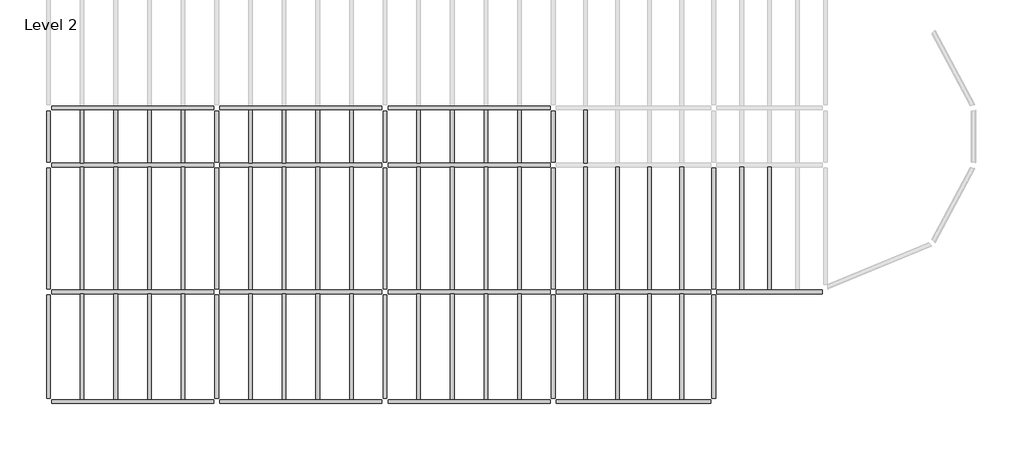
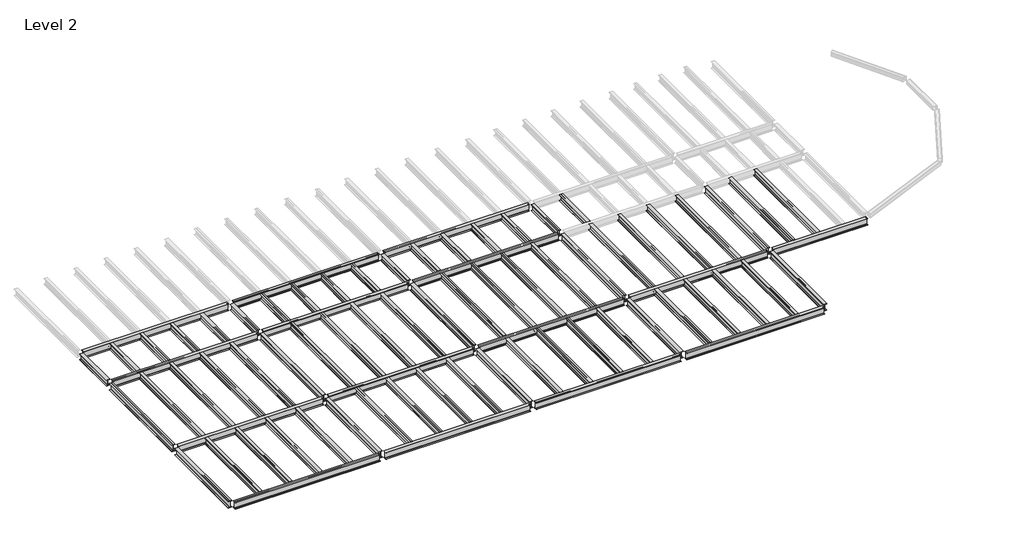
# One storey, part 1 of 2: 76 beams.
"""IFC4 building model written with IfcOpenShell, lengths in millimetres."""

from ifc_helpers import new_model, si_unit, origin, place, context, project, spatial, transform, mapped, element, save
from components import w_shapes_w12x26_ac08b433, w_shapes_w12x26_80971791, w_shapes_w12x26_13ab2ca8, w_shapes_w12x26_1a00c8bd, w_shapes_w14x30_2b5df836, w_shapes_w14x30_7cdcd298, w_shapes_w14x30_aa676985, w_shapes_w14x30_0fa609c7, w_shapes_w14x30_0dffa004

model = new_model("IFC4")

# Units and contexts
model_context = context("Model", 3, world=origin())
ifc_project = project(units=[si_unit("LENGTHUNIT", "METRE", prefix="MILLI")], contexts=[model_context])

# Site, building, storey
site = spatial("IfcSite", under=ifc_project)
building = spatial("IfcBuilding", under=site)
storey = spatial("IfcBuildingStorey", under=building, Name="Level 2", Elevation=3505.2)

# Beams
placement = place(None, origin())
w_shapes_w12x26_shape = w_shapes_w12x26_ac08b433(model_context)
element("IfcBeam", 1, ObjectType="W Shapes : W12X26", at=placement, inside=storey, context=model_context, shape_type="MappedRepresentation", body=[
    mapped(w_shapes_w12x26_shape, transform((-17242.6535279, -2505.8101681, 3350.26), x_axis=(0.0, -1.0, 0.0), y_axis=(1.0, 0.0, 0.0), z_axis=(0.0, 0.0, 1.0))),
])
element("IfcBeam", 2, ObjectType="W Shapes : W12X26", at=placement, inside=storey, context=model_context, shape_type="MappedRepresentation", body=[
    mapped(w_shapes_w12x26_shape, transform((-9622.6535279, -2505.8101681, 3350.26), x_axis=(0.0, -1.0, 0.0), y_axis=(1.0, 0.0, 0.0), z_axis=(0.0, 0.0, 1.0))),
])
element("IfcBeam", 3, ObjectType="W Shapes : W12X26", at=placement, inside=storey, context=model_context, shape_type="MappedRepresentation", body=[
    mapped(w_shapes_w12x26_shape, transform((-2002.6535279, -2505.8101681, 3350.26), x_axis=(0.0, -1.0, 0.0), y_axis=(1.0, 0.0, 0.0), z_axis=(0.0, 0.0, 1.0))),
])
element("IfcBeam", 4, ObjectType="W Shapes : W12X26", at=placement, inside=storey, context=model_context, shape_type="MappedRepresentation", body=[
    mapped(w_shapes_w12x26_shape, transform((5617.3464721, -2505.8101681, 3350.26), x_axis=(0.0, -1.0, 0.0), y_axis=(1.0, 0.0, 0.0), z_axis=(0.0, 0.0, 1.0))),
])
w_shapes_w12x26_2_shape = w_shapes_w12x26_80971791(model_context)
element("IfcBeam", 5, ObjectType="W Shapes : W12X26", at=placement, inside=storey, context=model_context, shape_type="MappedRepresentation", body=[
    mapped(w_shapes_w12x26_2_shape, transform((-11146.6535279, -12033.9851681, 3350.26), x_axis=(0.0, -1.0, 0.0), y_axis=(1.0, 0.0, 0.0), z_axis=(0.0, 0.0, 1.0))),
])
element("IfcBeam", 6, ObjectType="W Shapes : W12X26", at=placement, inside=storey, context=model_context, shape_type="MappedRepresentation", body=[
    mapped(w_shapes_w12x26_2_shape, transform((-12670.6535279, -12033.9851681, 3350.26), x_axis=(0.0, -1.0, 0.0), y_axis=(1.0, 0.0, 0.0), z_axis=(0.0, 0.0, 1.0))),
])
element("IfcBeam", 7, ObjectType="W Shapes : W12X26", at=placement, inside=storey, context=model_context, shape_type="MappedRepresentation", body=[
    mapped(w_shapes_w12x26_2_shape, transform((-14194.6535279, -12033.9851681, 3350.26), x_axis=(0.0, -1.0, 0.0), y_axis=(1.0, 0.0, 0.0), z_axis=(0.0, 0.0, 1.0))),
])
element("IfcBeam", 8, ObjectType="W Shapes : W12X26", at=placement, inside=storey, context=model_context, shape_type="MappedRepresentation", body=[
    mapped(w_shapes_w12x26_2_shape, transform((-15718.6535279, -12033.9851681, 3350.26), x_axis=(0.0, -1.0, 0.0), y_axis=(1.0, 0.0, 0.0), z_axis=(0.0, 0.0, 1.0))),
])
element("IfcBeam", 9, ObjectType="W Shapes : W12X26", at=placement, inside=storey, context=model_context, shape_type="MappedRepresentation", body=[
    mapped(w_shapes_w12x26_2_shape, transform((-3526.6535279, -12033.9851681, 3350.26), x_axis=(0.0, -1.0, 0.0), y_axis=(1.0, 0.0, 0.0), z_axis=(0.0, 0.0, 1.0))),
])
element("IfcBeam", 10, ObjectType="W Shapes : W12X26", at=placement, inside=storey, context=model_context, shape_type="MappedRepresentation", body=[
    mapped(w_shapes_w12x26_2_shape, transform((-5050.6535279, -12033.9851681, 3350.26), x_axis=(0.0, -1.0, 0.0), y_axis=(1.0, 0.0, 0.0), z_axis=(0.0, 0.0, 1.0))),
])
element("IfcBeam", 11, ObjectType="W Shapes : W12X26", at=placement, inside=storey, context=model_context, shape_type="MappedRepresentation", body=[
    mapped(w_shapes_w12x26_2_shape, transform((-6574.6535279, -12033.9851681, 3350.26), x_axis=(0.0, -1.0, 0.0), y_axis=(1.0, 0.0, 0.0), z_axis=(0.0, 0.0, 1.0))),
])
element("IfcBeam", 12, ObjectType="W Shapes : W12X26", at=placement, inside=storey, context=model_context, shape_type="MappedRepresentation", body=[
    mapped(w_shapes_w12x26_2_shape, transform((-8098.6535279, -12033.9851681, 3350.26), x_axis=(0.0, -1.0, 0.0), y_axis=(1.0, 0.0, 0.0), z_axis=(0.0, 0.0, 1.0))),
])
element("IfcBeam", 13, ObjectType="W Shapes : W12X26", at=placement, inside=storey, context=model_context, shape_type="MappedRepresentation", body=[
    mapped(w_shapes_w12x26_2_shape, transform((-478.6535279, -12033.9851681, 3350.26), x_axis=(0.0, 1.0, 0.0), y_axis=(-1.0, 0.0, 0.0), z_axis=(0.0, 0.0, 1.0))),
])
element("IfcBeam", 14, ObjectType="W Shapes : W12X26", at=placement, inside=storey, context=model_context, shape_type="MappedRepresentation", body=[
    mapped(w_shapes_w12x26_2_shape, transform((1045.3464721, -12033.9851681, 3350.26), x_axis=(0.0, 1.0, 0.0), y_axis=(-1.0, 0.0, 0.0), z_axis=(0.0, 0.0, 1.0))),
])
element("IfcBeam", 15, ObjectType="W Shapes : W12X26", at=placement, inside=storey, context=model_context, shape_type="MappedRepresentation", body=[
    mapped(w_shapes_w12x26_2_shape, transform((2569.3464721, -12033.9851681, 3350.26), x_axis=(0.0, 1.0, 0.0), y_axis=(-1.0, 0.0, 0.0), z_axis=(0.0, 0.0, 1.0))),
])
element("IfcBeam", 16, ObjectType="W Shapes : W12X26", at=placement, inside=storey, context=model_context, shape_type="MappedRepresentation", body=[
    mapped(w_shapes_w12x26_2_shape, transform((4093.3464721, -12033.9851681, 3350.26), x_axis=(0.0, 1.0, 0.0), y_axis=(-1.0, 0.0, 0.0), z_axis=(0.0, 0.0, 1.0))),
])
element("IfcBeam", 17, ObjectType="W Shapes : W12X26", at=placement, inside=storey, context=model_context, shape_type="MappedRepresentation", body=[
    mapped(w_shapes_w12x26_2_shape, transform((11431.4064721, -12033.9851681, 3350.26), x_axis=(0.0, -1.0, 0.0), y_axis=(1.0, 0.0, 0.0), z_axis=(0.0, 0.0, 1.0))),
])
element("IfcBeam", 18, ObjectType="W Shapes : W12X26", at=placement, inside=storey, context=model_context, shape_type="MappedRepresentation", body=[
    mapped(w_shapes_w12x26_2_shape, transform((9977.8914721, -12033.9851681, 3350.26), x_axis=(0.0, -1.0, 0.0), y_axis=(1.0, 0.0, 0.0), z_axis=(0.0, 0.0, 1.0))),
])
element("IfcBeam", 19, ObjectType="W Shapes : W12X26", at=placement, inside=storey, context=model_context, shape_type="MappedRepresentation", body=[
    mapped(w_shapes_w12x26_2_shape, transform((8524.3764721, -12033.9851681, 3350.26), x_axis=(0.0, -1.0, 0.0), y_axis=(1.0, 0.0, 0.0), z_axis=(0.0, 0.0, 1.0))),
])
element("IfcBeam", 20, ObjectType="W Shapes : W12X26", at=placement, inside=storey, context=model_context, shape_type="MappedRepresentation", body=[
    mapped(w_shapes_w12x26_2_shape, transform((7070.8614721, -12033.9851681, 3350.26), x_axis=(0.0, -1.0, 0.0), y_axis=(1.0, 0.0, 0.0), z_axis=(0.0, 0.0, 1.0))),
])
w_shapes_w12x26_3_shape = w_shapes_w12x26_13ab2ca8(model_context)
element("IfcBeam", 21, ObjectType="W Shapes : W12X26", at=placement, inside=storey, context=model_context, shape_type="MappedRepresentation", body=[
    mapped(w_shapes_w12x26_3_shape, transform((7070.8614721, -6674.5851681, 3350.26), x_axis=(0.0, 1.0, 0.0), y_axis=(-1.0, 0.0, 0.0), z_axis=(0.0, 0.0, 1.0))),
])
element("IfcBeam", 22, ObjectType="W Shapes : W12X26", at=placement, inside=storey, context=model_context, shape_type="MappedRepresentation", body=[
    mapped(w_shapes_w12x26_3_shape, transform((8524.3764721, -6674.5851681, 3350.26), x_axis=(0.0, 1.0, 0.0), y_axis=(-1.0, 0.0, 0.0), z_axis=(0.0, 0.0, 1.0))),
])
element("IfcBeam", 23, ObjectType="W Shapes : W12X26", at=placement, inside=storey, context=model_context, shape_type="MappedRepresentation", body=[
    mapped(w_shapes_w12x26_3_shape, transform((9977.8914721, -6674.5851681, 3350.26), x_axis=(0.0, 1.0, 0.0), y_axis=(-1.0, 0.0, 0.0), z_axis=(0.0, 0.0, 1.0))),
])
element("IfcBeam", 24, ObjectType="W Shapes : W12X26", at=placement, inside=storey, context=model_context, shape_type="MappedRepresentation", body=[
    mapped(w_shapes_w12x26_3_shape, transform((11431.4064721, -6674.5851681, 3350.26), x_axis=(0.0, 1.0, 0.0), y_axis=(-1.0, 0.0, 0.0), z_axis=(0.0, 0.0, 1.0))),
])
element("IfcBeam", 25, ObjectType="W Shapes : W12X26", at=placement, inside=storey, context=model_context, shape_type="MappedRepresentation", body=[
    mapped(w_shapes_w12x26_3_shape, transform((4093.3464721, -6674.5851681, 3350.26), x_axis=(0.0, -1.0, 0.0), y_axis=(1.0, 0.0, 0.0), z_axis=(0.0, 0.0, 1.0))),
])
element("IfcBeam", 26, ObjectType="W Shapes : W12X26", at=placement, inside=storey, context=model_context, shape_type="MappedRepresentation", body=[
    mapped(w_shapes_w12x26_3_shape, transform((2569.3464721, -6674.5851681, 3350.26), x_axis=(0.0, -1.0, 0.0), y_axis=(1.0, 0.0, 0.0), z_axis=(0.0, 0.0, 1.0))),
])
element("IfcBeam", 27, ObjectType="W Shapes : W12X26", at=placement, inside=storey, context=model_context, shape_type="MappedRepresentation", body=[
    mapped(w_shapes_w12x26_3_shape, transform((1045.3464721, -6674.5851681, 3350.26), x_axis=(0.0, -1.0, 0.0), y_axis=(1.0, 0.0, 0.0), z_axis=(0.0, 0.0, 1.0))),
])
element("IfcBeam", 28, ObjectType="W Shapes : W12X26", at=placement, inside=storey, context=model_context, shape_type="MappedRepresentation", body=[
    mapped(w_shapes_w12x26_3_shape, transform((-478.6535279, -6674.5851681, 3350.26), x_axis=(0.0, -1.0, 0.0), y_axis=(1.0, 0.0, 0.0), z_axis=(0.0, 0.0, 1.0))),
])
element("IfcBeam", 29, ObjectType="W Shapes : W12X26", at=placement, inside=storey, context=model_context, shape_type="MappedRepresentation", body=[
    mapped(w_shapes_w12x26_3_shape, transform((-8098.6535279, -6674.5851681, 3350.26), x_axis=(0.0, 1.0, 0.0), y_axis=(-1.0, 0.0, 0.0), z_axis=(0.0, 0.0, 1.0))),
])
element("IfcBeam", 30, ObjectType="W Shapes : W12X26", at=placement, inside=storey, context=model_context, shape_type="MappedRepresentation", body=[
    mapped(w_shapes_w12x26_3_shape, transform((-6574.6535279, -6674.5851681, 3350.26), x_axis=(0.0, 1.0, 0.0), y_axis=(-1.0, 0.0, 0.0), z_axis=(0.0, 0.0, 1.0))),
])
element("IfcBeam", 31, ObjectType="W Shapes : W12X26", at=placement, inside=storey, context=model_context, shape_type="MappedRepresentation", body=[
    mapped(w_shapes_w12x26_3_shape, transform((-5050.6535279, -6674.5851681, 3350.26), x_axis=(0.0, 1.0, 0.0), y_axis=(-1.0, 0.0, 0.0), z_axis=(0.0, 0.0, 1.0))),
])
element("IfcBeam", 32, ObjectType="W Shapes : W12X26", at=placement, inside=storey, context=model_context, shape_type="MappedRepresentation", body=[
    mapped(w_shapes_w12x26_3_shape, transform((-3526.6535279, -6674.5851681, 3350.26), x_axis=(0.0, 1.0, 0.0), y_axis=(-1.0, 0.0, 0.0), z_axis=(0.0, 0.0, 1.0))),
])
element("IfcBeam", 33, ObjectType="W Shapes : W12X26", at=placement, inside=storey, context=model_context, shape_type="MappedRepresentation", body=[
    mapped(w_shapes_w12x26_3_shape, transform((-11146.6535279, -6674.5851681, 3350.26), x_axis=(0.0, -1.0, 0.0), y_axis=(1.0, 0.0, 0.0), z_axis=(0.0, 0.0, 1.0))),
])
element("IfcBeam", 34, ObjectType="W Shapes : W12X26", at=placement, inside=storey, context=model_context, shape_type="MappedRepresentation", body=[
    mapped(w_shapes_w12x26_3_shape, transform((-12670.6535279, -6674.5851681, 3350.26), x_axis=(0.0, -1.0, 0.0), y_axis=(1.0, 0.0, 0.0), z_axis=(0.0, 0.0, 1.0))),
])
element("IfcBeam", 35, ObjectType="W Shapes : W12X26", at=placement, inside=storey, context=model_context, shape_type="MappedRepresentation", body=[
    mapped(w_shapes_w12x26_3_shape, transform((-14194.6535279, -6674.5851681, 3350.26), x_axis=(0.0, -1.0, 0.0), y_axis=(1.0, 0.0, 0.0), z_axis=(0.0, 0.0, 1.0))),
])
element("IfcBeam", 36, ObjectType="W Shapes : W12X26", at=placement, inside=storey, context=model_context, shape_type="MappedRepresentation", body=[
    mapped(w_shapes_w12x26_3_shape, transform((-15718.6535279, -6674.5851681, 3350.26), x_axis=(0.0, -1.0, 0.0), y_axis=(1.0, 0.0, 0.0), z_axis=(0.0, 0.0, 1.0))),
])
element("IfcBeam", 37, ObjectType="W Shapes : W12X26", at=placement, inside=storey, context=model_context, shape_type="MappedRepresentation", body=[
    mapped(w_shapes_w12x26_3_shape, transform((15411.4277221, -6674.5851681, 3350.26), x_axis=(0.0, 1.0, 0.0), y_axis=(-1.0, 0.0, 0.0), z_axis=(0.0, 0.0, 1.0))),
])
element("IfcBeam", 38, ObjectType="W Shapes : W12X26", at=placement, inside=storey, context=model_context, shape_type="MappedRepresentation", body=[
    mapped(w_shapes_w12x26_3_shape, transform((14148.1745971, -6674.5851681, 3350.26), x_axis=(0.0, 1.0, 0.0), y_axis=(-1.0, 0.0, 0.0), z_axis=(0.0, 0.0, 1.0))),
])
w_shapes_w12x26_4_shape = w_shapes_w12x26_1a00c8bd(model_context)
element("IfcBeam", 39, ObjectType="W Shapes : W12X26", at=placement, inside=storey, context=model_context, shape_type="MappedRepresentation", body=[
    mapped(w_shapes_w12x26_4_shape, transform((-11146.6535279, -2505.8101681, 3350.26), x_axis=(0.0, -1.0, 0.0), y_axis=(1.0, 0.0, 0.0), z_axis=(0.0, 0.0, 1.0))),
])
element("IfcBeam", 40, ObjectType="W Shapes : W12X26", at=placement, inside=storey, context=model_context, shape_type="MappedRepresentation", body=[
    mapped(w_shapes_w12x26_4_shape, transform((-12670.6535279, -2505.8101681, 3350.26), x_axis=(0.0, -1.0, 0.0), y_axis=(1.0, 0.0, 0.0), z_axis=(0.0, 0.0, 1.0))),
])
element("IfcBeam", 41, ObjectType="W Shapes : W12X26", at=placement, inside=storey, context=model_context, shape_type="MappedRepresentation", body=[
    mapped(w_shapes_w12x26_4_shape, transform((-14194.6535279, -2505.8101681, 3350.26), x_axis=(0.0, -1.0, 0.0), y_axis=(1.0, 0.0, 0.0), z_axis=(0.0, 0.0, 1.0))),
])
element("IfcBeam", 42, ObjectType="W Shapes : W12X26", at=placement, inside=storey, context=model_context, shape_type="MappedRepresentation", body=[
    mapped(w_shapes_w12x26_4_shape, transform((-15718.6535279, -2505.8101681, 3350.26), x_axis=(0.0, -1.0, 0.0), y_axis=(1.0, 0.0, 0.0), z_axis=(0.0, 0.0, 1.0))),
])
element("IfcBeam", 43, ObjectType="W Shapes : W12X26", at=placement, inside=storey, context=model_context, shape_type="MappedRepresentation", body=[
    mapped(w_shapes_w12x26_4_shape, transform((-3526.6535279, -2505.8101681, 3350.26), x_axis=(0.0, -1.0, 0.0), y_axis=(1.0, 0.0, 0.0), z_axis=(0.0, 0.0, 1.0))),
])
element("IfcBeam", 44, ObjectType="W Shapes : W12X26", at=placement, inside=storey, context=model_context, shape_type="MappedRepresentation", body=[
    mapped(w_shapes_w12x26_4_shape, transform((-5050.6535279, -2505.8101681, 3350.26), x_axis=(0.0, -1.0, 0.0), y_axis=(1.0, 0.0, 0.0), z_axis=(0.0, 0.0, 1.0))),
])
element("IfcBeam", 45, ObjectType="W Shapes : W12X26", at=placement, inside=storey, context=model_context, shape_type="MappedRepresentation", body=[
    mapped(w_shapes_w12x26_4_shape, transform((-6574.6535279, -2505.8101681, 3350.26), x_axis=(0.0, -1.0, 0.0), y_axis=(1.0, 0.0, 0.0), z_axis=(0.0, 0.0, 1.0))),
])
element("IfcBeam", 46, ObjectType="W Shapes : W12X26", at=placement, inside=storey, context=model_context, shape_type="MappedRepresentation", body=[
    mapped(w_shapes_w12x26_4_shape, transform((-8098.6535279, -2505.8101681, 3350.26), x_axis=(0.0, -1.0, 0.0), y_axis=(1.0, 0.0, 0.0), z_axis=(0.0, 0.0, 1.0))),
])
element("IfcBeam", 47, ObjectType="W Shapes : W12X26", at=placement, inside=storey, context=model_context, shape_type="MappedRepresentation", body=[
    mapped(w_shapes_w12x26_4_shape, transform((4093.3464721, -2505.8101681, 3350.26), x_axis=(0.0, -1.0, 0.0), y_axis=(1.0, 0.0, 0.0), z_axis=(0.0, 0.0, 1.0))),
])
element("IfcBeam", 48, ObjectType="W Shapes : W12X26", at=placement, inside=storey, context=model_context, shape_type="MappedRepresentation", body=[
    mapped(w_shapes_w12x26_4_shape, transform((2569.3464721, -2505.8101681, 3350.26), x_axis=(0.0, -1.0, 0.0), y_axis=(1.0, 0.0, 0.0), z_axis=(0.0, 0.0, 1.0))),
])
element("IfcBeam", 49, ObjectType="W Shapes : W12X26", at=placement, inside=storey, context=model_context, shape_type="MappedRepresentation", body=[
    mapped(w_shapes_w12x26_4_shape, transform((1045.3464721, -2505.8101681, 3350.26), x_axis=(0.0, -1.0, 0.0), y_axis=(1.0, 0.0, 0.0), z_axis=(0.0, 0.0, 1.0))),
])
element("IfcBeam", 50, ObjectType="W Shapes : W12X26", at=placement, inside=storey, context=model_context, shape_type="MappedRepresentation", body=[
    mapped(w_shapes_w12x26_4_shape, transform((-478.6535279, -2505.8101681, 3350.26), x_axis=(0.0, -1.0, 0.0), y_axis=(1.0, 0.0, 0.0), z_axis=(0.0, 0.0, 1.0))),
])
element("IfcBeam", 51, ObjectType="W Shapes : W12X26", at=placement, inside=storey, context=model_context, shape_type="MappedRepresentation", body=[
    mapped(w_shapes_w12x26_4_shape, transform((7070.8614721, -2505.8101681, 3350.26), x_axis=(0.0, -1.0, 0.0), y_axis=(1.0, 0.0, 0.0), z_axis=(0.0, 0.0, 1.0))),
])
w_shapes_w14x30_shape = w_shapes_w14x30_2b5df836(model_context)
element("IfcBeam", 52, ObjectType="W Shapes : W14X30", at=placement, inside=storey, context=model_context, shape_type="MappedRepresentation", body=[
    mapped(w_shapes_w14x30_shape, transform((1807.3464721, -1208.8226681, 3329.94), x_axis=(-1.0, 0.0, 0.0), y_axis=(0.0, -1.0, 0.0), z_axis=(0.0, 0.0, 1.0))),
])
element("IfcBeam", 53, ObjectType="W Shapes : W14X30", at=placement, inside=storey, context=model_context, shape_type="MappedRepresentation", body=[
    mapped(w_shapes_w14x30_shape, transform((-5812.6535279, -1208.8226681, 3329.94), x_axis=(-1.0, 0.0, 0.0), y_axis=(0.0, -1.0, 0.0), z_axis=(0.0, 0.0, 1.0))),
])
element("IfcBeam", 54, ObjectType="W Shapes : W14X30", at=placement, inside=storey, context=model_context, shape_type="MappedRepresentation", body=[
    mapped(w_shapes_w14x30_shape, transform((-13432.6535279, -1208.8226681, 3329.94), x_axis=(-1.0, 0.0, 0.0), y_axis=(0.0, -1.0, 0.0), z_axis=(0.0, 0.0, 1.0))),
])
element("IfcBeam", 55, ObjectType="W Shapes : W14X30", at=placement, inside=storey, context=model_context, shape_type="MappedRepresentation", body=[
    mapped(w_shapes_w14x30_shape, transform((-13432.6535279, -3802.7976681, 3329.94), x_axis=(1.0, 0.0, 0.0), y_axis=(0.0, 1.0, 0.0), z_axis=(0.0, 0.0, 1.0))),
])
element("IfcBeam", 56, ObjectType="W Shapes : W14X30", at=placement, inside=storey, context=model_context, shape_type="MappedRepresentation", body=[
    mapped(w_shapes_w14x30_shape, transform((-5812.6535279, -3802.7976681, 3329.94), x_axis=(1.0, 0.0, 0.0), y_axis=(0.0, 1.0, 0.0), z_axis=(0.0, 0.0, 1.0))),
])
element("IfcBeam", 57, ObjectType="W Shapes : W14X30", at=placement, inside=storey, context=model_context, shape_type="MappedRepresentation", body=[
    mapped(w_shapes_w14x30_shape, transform((1807.3464721, -3802.7976681, 3329.94), x_axis=(1.0, 0.0, 0.0), y_axis=(0.0, 1.0, 0.0), z_axis=(0.0, 0.0, 1.0))),
])
element("IfcBeam", 58, ObjectType="W Shapes : W14X30", at=placement, inside=storey, context=model_context, shape_type="MappedRepresentation", body=[
    mapped(w_shapes_w14x30_shape, transform((1807.3464721, -9546.3726681, 3329.94), x_axis=(-1.0, 0.0, 0.0), y_axis=(0.0, -1.0, 0.0), z_axis=(0.0, 0.0, 1.0))),
])
element("IfcBeam", 59, ObjectType="W Shapes : W14X30", at=placement, inside=storey, context=model_context, shape_type="MappedRepresentation", body=[
    mapped(w_shapes_w14x30_shape, transform((-5812.6535279, -9546.3726681, 3329.94), x_axis=(-1.0, 0.0, 0.0), y_axis=(0.0, -1.0, 0.0), z_axis=(0.0, 0.0, 1.0))),
])
element("IfcBeam", 60, ObjectType="W Shapes : W14X30", at=placement, inside=storey, context=model_context, shape_type="MappedRepresentation", body=[
    mapped(w_shapes_w14x30_shape, transform((-13432.6535279, -9546.3726681, 3329.94), x_axis=(-1.0, 0.0, 0.0), y_axis=(0.0, -1.0, 0.0), z_axis=(0.0, 0.0, 1.0))),
])
element("IfcBeam", 61, ObjectType="W Shapes : W14X30", at=placement, inside=storey, context=model_context, shape_type="MappedRepresentation", body=[
    mapped(w_shapes_w14x30_shape, transform((-13432.6535279, -14521.5976681, 3329.94), x_axis=(1.0, 0.0, 0.0), y_axis=(0.0, 1.0, 0.0), z_axis=(0.0, 0.0, 1.0))),
])
element("IfcBeam", 62, ObjectType="W Shapes : W14X30", at=placement, inside=storey, context=model_context, shape_type="MappedRepresentation", body=[
    mapped(w_shapes_w14x30_shape, transform((-5812.6535279, -14521.5976681, 3329.94), x_axis=(1.0, 0.0, 0.0), y_axis=(0.0, 1.0, 0.0), z_axis=(0.0, 0.0, 1.0))),
])
element("IfcBeam", 63, ObjectType="W Shapes : W14X30", at=placement, inside=storey, context=model_context, shape_type="MappedRepresentation", body=[
    mapped(w_shapes_w14x30_shape, transform((1807.3464721, -14521.5976681, 3329.94), x_axis=(1.0, 0.0, 0.0), y_axis=(0.0, 1.0, 0.0), z_axis=(0.0, 0.0, 1.0))),
])
w_shapes_w14x30_2_shape = w_shapes_w14x30_7cdcd298(model_context)
element("IfcBeam", 64, ObjectType="W Shapes : W14X30", at=placement, inside=storey, context=model_context, shape_type="MappedRepresentation", body=[
    mapped(w_shapes_w14x30_2_shape, transform((9251.1339721, -9546.3726681, 3329.94), x_axis=(-1.0, 0.0, 0.0), y_axis=(0.0, -1.0, 0.0), z_axis=(0.0, 0.0, 1.0))),
])
element("IfcBeam", 65, ObjectType="W Shapes : W14X30", at=placement, inside=storey, context=model_context, shape_type="MappedRepresentation", body=[
    mapped(w_shapes_w14x30_2_shape, transform((9251.1339721, -14521.5976681, 3329.94), x_axis=(1.0, 0.0, 0.0), y_axis=(0.0, 1.0, 0.0), z_axis=(0.0, 0.0, 1.0))),
])
w_shapes_w14x30_3_shape = w_shapes_w14x30_aa676985(model_context)
element("IfcBeam", 66, ObjectType="W Shapes : W14X30", at=placement, inside=storey, context=model_context, shape_type="MappedRepresentation", body=[
    mapped(w_shapes_w14x30_3_shape, transform((-17242.6535279, -12033.9851681, 3329.94), x_axis=(0.0, -1.0, 0.0), y_axis=(1.0, 0.0, 0.0), z_axis=(0.0, 0.0, 1.0))),
])
element("IfcBeam", 67, ObjectType="W Shapes : W14X30", at=placement, inside=storey, context=model_context, shape_type="MappedRepresentation", body=[
    mapped(w_shapes_w14x30_3_shape, transform((12884.9214721, -12033.9851681, 3329.94), x_axis=(0.0, 1.0, 0.0), y_axis=(-1.0, 0.0, 0.0), z_axis=(0.0, 0.0, 1.0))),
])
element("IfcBeam", 68, ObjectType="W Shapes : W14X30", at=placement, inside=storey, context=model_context, shape_type="MappedRepresentation", body=[
    mapped(w_shapes_w14x30_3_shape, transform((-9622.6535279, -12033.9851681, 3329.94), x_axis=(0.0, -1.0, 0.0), y_axis=(1.0, 0.0, 0.0), z_axis=(0.0, 0.0, 1.0))),
])
element("IfcBeam", 69, ObjectType="W Shapes : W14X30", at=placement, inside=storey, context=model_context, shape_type="MappedRepresentation", body=[
    mapped(w_shapes_w14x30_3_shape, transform((-2002.6535279, -12033.9851681, 3329.94), x_axis=(0.0, 1.0, 0.0), y_axis=(-1.0, 0.0, 0.0), z_axis=(0.0, 0.0, 1.0))),
])
element("IfcBeam", 70, ObjectType="W Shapes : W14X30", at=placement, inside=storey, context=model_context, shape_type="MappedRepresentation", body=[
    mapped(w_shapes_w14x30_3_shape, transform((5617.3464721, -12033.9851681, 3329.94), x_axis=(0.0, -1.0, 0.0), y_axis=(1.0, 0.0, 0.0), z_axis=(0.0, 0.0, 1.0))),
])
w_shapes_w14x30_4_shape = w_shapes_w14x30_0fa609c7(model_context)
element("IfcBeam", 71, ObjectType="W Shapes : W14X30", at=placement, inside=storey, context=model_context, shape_type="MappedRepresentation", body=[
    mapped(w_shapes_w14x30_4_shape, transform((15411.4277221, -9546.3726681, 3329.94), x_axis=(-1.0, 0.0, 0.0), y_axis=(0.0, -1.0, 0.0), z_axis=(0.0, 0.0, 1.0))),
])
w_shapes_w14x30_5_shape = w_shapes_w14x30_0dffa004(model_context)
element("IfcBeam", 72, ObjectType="W Shapes : W14X30", at=placement, inside=storey, context=model_context, shape_type="MappedRepresentation", body=[
    mapped(w_shapes_w14x30_5_shape, transform((12884.9214721, -6674.5851681, 3329.94), x_axis=(0.0, 1.0, 0.0), y_axis=(-1.0, 0.0, 0.0), z_axis=(0.0, 0.0, 1.0))),
])
element("IfcBeam", 73, ObjectType="W Shapes : W14X30", at=placement, inside=storey, context=model_context, shape_type="MappedRepresentation", body=[
    mapped(w_shapes_w14x30_5_shape, transform((-17242.6535279, -6674.5851681, 3329.94), x_axis=(0.0, 1.0, 0.0), y_axis=(-1.0, 0.0, 0.0), z_axis=(0.0, 0.0, 1.0))),
])
element("IfcBeam", 74, ObjectType="W Shapes : W14X30", at=placement, inside=storey, context=model_context, shape_type="MappedRepresentation", body=[
    mapped(w_shapes_w14x30_5_shape, transform((-9622.6535279, -6674.5851681, 3329.94), x_axis=(0.0, -1.0, 0.0), y_axis=(1.0, 0.0, 0.0), z_axis=(0.0, 0.0, 1.0))),
])
element("IfcBeam", 75, ObjectType="W Shapes : W14X30", at=placement, inside=storey, context=model_context, shape_type="MappedRepresentation", body=[
    mapped(w_shapes_w14x30_5_shape, transform((-2002.6535279, -6674.5851681, 3329.94), x_axis=(0.0, 1.0, 0.0), y_axis=(-1.0, 0.0, 0.0), z_axis=(0.0, 0.0, 1.0))),
])
element("IfcBeam", 76, ObjectType="W Shapes : W14X30", at=placement, inside=storey, context=model_context, shape_type="MappedRepresentation", body=[
    mapped(w_shapes_w14x30_5_shape, transform((5617.3464721, -6674.5851681, 3329.94), x_axis=(0.0, -1.0, 0.0), y_axis=(1.0, 0.0, 0.0), z_axis=(0.0, 0.0, 1.0))),
])

save(model, "model.ifc")
